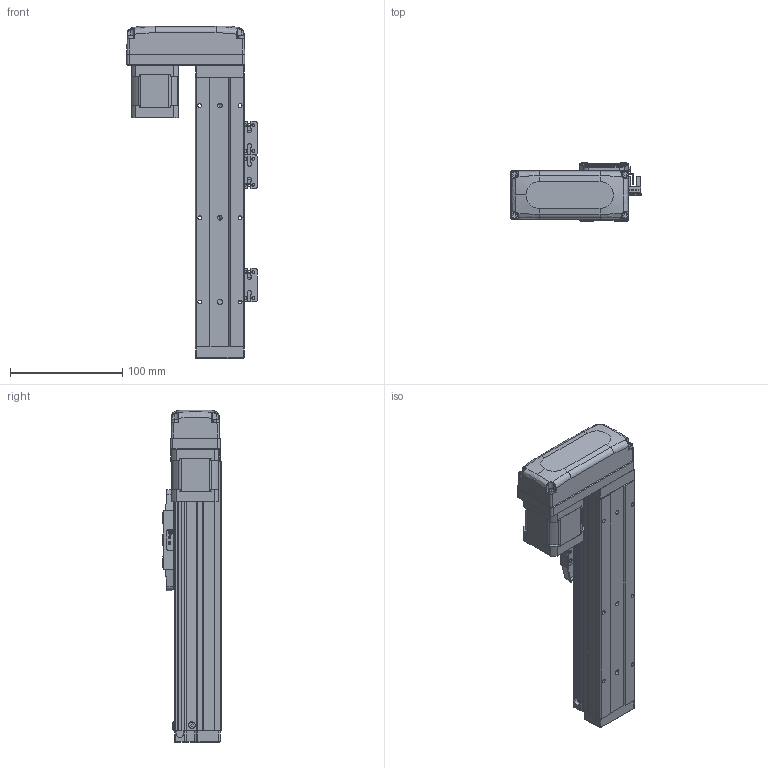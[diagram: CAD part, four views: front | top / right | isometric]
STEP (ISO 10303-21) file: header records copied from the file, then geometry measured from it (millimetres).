
FILE_DESCRIPTION (( 'STEP AP203' ), '1' );
FILE_NAME ('GTH4-100-BR-B42-C4.step', '2023-02-14T00:25:13', ( '微软用户' ), ( '微软中国' ), 'SwSTEP 2.0', 'SolidWorks 2020', '' );
FILE_SCHEMA (( 'CONFIG_CONTROL_DESIGN' ));
Length unit declared in the file: millimetre
Products named in the file (19): BTH40-001-50_BTH40-001-100; BTH50-024; GBT 70.3-M3℅6; BTH40-003; GBT 70.1-M3℅6; BTH40-027-1; BTH40-006; GBT96.1-2002 3×0.8; BTH50-026; BTH-M3X5X6; BTH40-022; 42CM06; GBT70.1-2000 M3×16; GBT 70.1-M2.5×6; GTH4-100-BR-B42-C4; BTH50-028; BTH40-004; BTH50-023; BTH40-013
Assembly tree (47 placements, depth 2):
  GTH4-100-BR-B42-C4
    BTH40-001-50_BTH40-001-100
    BTH40-003
    BTH40-006
    BTH-M3X5X6  x8
    GBT70.1-2000 M3×16  x4
    BTH50-028  x2
    BTH50-023  x3
    BTH50-024  x3
    GBT 70.1-M3℅6  x6
    GBT96.1-2002 3×0.8  x6
    BTH40-022
    GBT 70.1-M2.5×6  x2
    BTH40-004
    BTH40-013
    GBT 70.3-M3℅6  x4
    BTH40-027-1
    BTH50-026
    42CM06
Bounding box: 116.2 x 52 x 296 mm (x, y, z)
Volume: 635265.5 mm3; surface area: 158264.4 mm2
Topology: 56 solids, 56 shells, 3323 faces, 7736 edges, 4622 vertices
Faces by surface type: cone 1508, plane 1076, cylinder 561, torus 124, bspline 42, sphere 12
Entity records: 77446 total; most frequent: CARTESIAN_POINT 13969, DIRECTION 13761, ORIENTED_EDGE 12118, EDGE_CURVE 6059, AXIS2_PLACEMENT_3D 5277, VERTEX_POINT 3609, LINE 3207, VECTOR 3207
